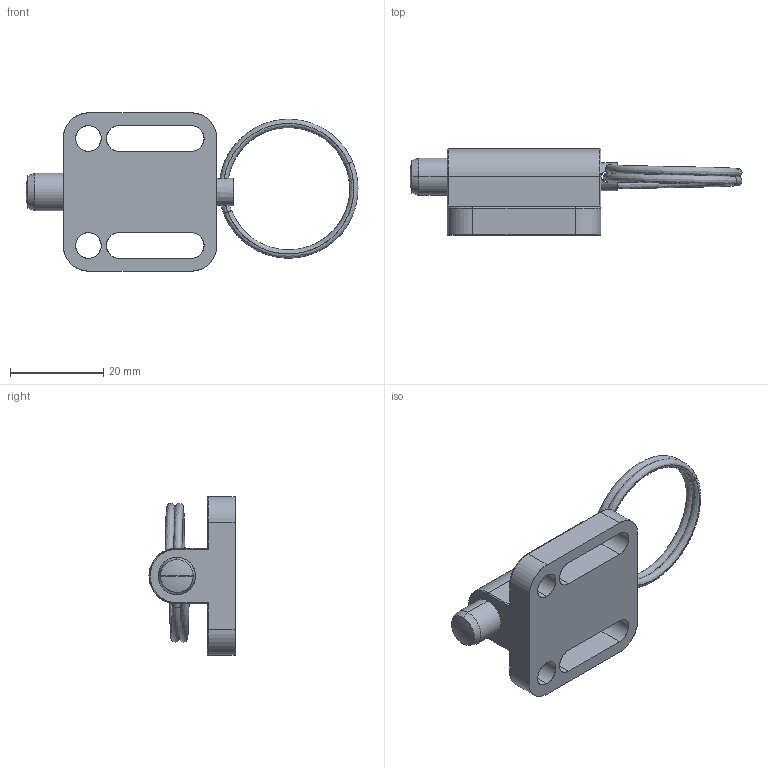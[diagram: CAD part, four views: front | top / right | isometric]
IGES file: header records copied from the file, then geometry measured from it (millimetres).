
Start section: SolidWorks IGES file using analytic representation for surfaces
Global section: file name: C:\HEMSIDA\cad\SLDPRT_2007\gn417\\gn417a_8.igs; native system: SolidWorks 2007; preprocessor: SolidWorks 2007; author: Administrator; date: 070919.152957; units: millimetre
Bounding box: 71.3 x 18.5 x 34 mm (x, y, z)
Surface area: 6920.8 mm2 (no closed solid volume)
Topology: 0 solids, 0 shells, 67 faces, 1042 edges, 1041 vertices
Faces by surface type: revolution 37, bspline 30
